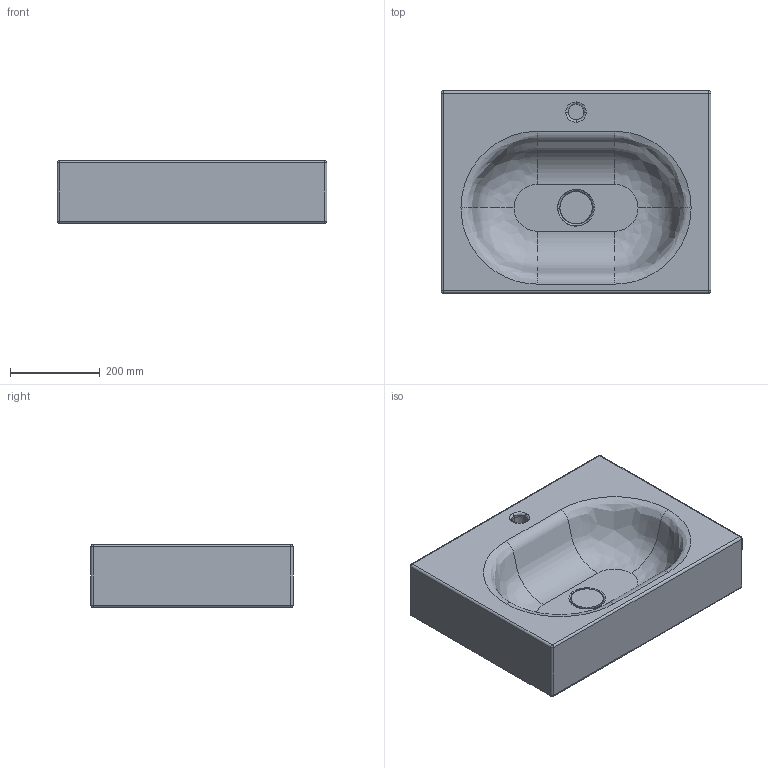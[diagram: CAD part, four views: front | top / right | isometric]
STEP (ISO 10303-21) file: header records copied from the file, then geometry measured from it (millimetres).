
FILE_DESCRIPTION(/* description */ (''),/* implementation_level */ '2;1');
FILE_NAME(/* name */ 'LAVABO MASSIMO DA 60',/* time_stamp */ '2026-05-08T15:25:29+02:00',/* author */ (''),/* organization */ (''),/* preprocessor_version */ 'ST-DEVELOPER v19.2',/* originating_system */ 'Rhino 8.30',/* authorisation */ '');
FILE_SCHEMA (('CONFIG_CONTROL_DESIGN'));
Length unit declared in the file: millimetre
Products named in the file (1): Document
Bounding box: 600 x 450 x 140 mm (x, y, z)
Volume: 20872.7 mm3; surface area: 916182.3 mm2
Topology: 1 solids, 2 shells, 60 faces, 127 edges, 72 vertices
Faces by surface type: bspline 28, cylinder 22, plane 10
Entity records: 2648 total; most frequent: CARTESIAN_POINT 1568, ORIENTED_EDGE 247, EDGE_CURVE 127, DIRECTION 124, AXIS2_PLACEMENT_3D 78, VERTEX_POINT 72, EDGE_LOOP 63, ADVANCED_FACE 60
